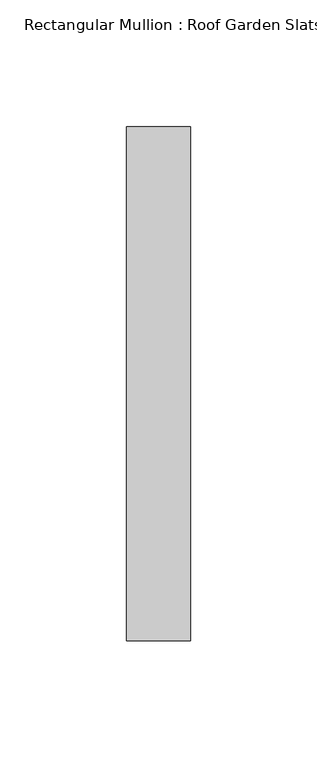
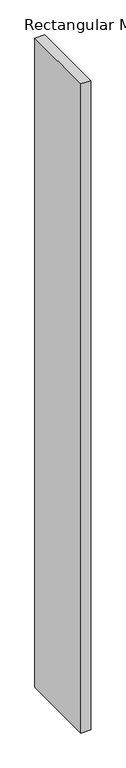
"""IFC4 building model written with IfcOpenShell, lengths in millimetres: member geometry, Rectangular Mullion : Roof Garden Slats."""

import ifcopenshell
import ifcopenshell.guid

model = None  # the IFC model being written
_history = None  # IfcOwnerHistory: only IFC2X3 demands one
_inside = {}  # id of a spatial element -> (the spatial element, [elements in it])
_under = {}  # id of a project, library or spatial element -> (it, [spatial elements below it])
_declared = {}  # id of a project -> (the project, [libraries it declares])
_typed = {}  # id of a type object -> (the type object, [elements of that type])
_made_of = {}  # id of a material, layer set ... -> (it, [elements and type objects made of it])


def new_model(schema):
    """Start an empty IFC model of exactly this schema.

    Asked for "IFC4X3", IfcOpenShell would pick the latest addendum, in which some entities
    have other attributes; the version numbers below select the first issue.
    IFC2X3 requires an IfcOwnerHistory on every rooted entity: one is made here for all.
    """
    global model, _history
    if schema == "IFC4X3":
        model = ifcopenshell.file(schema_version=(4, 3, 0, 0))
    else:
        model = ifcopenshell.file(schema=schema)
    _inside.clear()
    _under.clear()
    _declared.clear()
    _typed.clear()
    _made_of.clear()
    _history = None
    if model.schema == "IFC2X3":
        org = make("IfcOrganization", Name="unknown")
        user = make(
            "IfcPersonAndOrganization",
            ThePerson=make("IfcPerson", FamilyName="unknown"),
            TheOrganization=org,
        )
        app = make(
            "IfcApplication",
            ApplicationDeveloper=org,
            Version="unknown",
            ApplicationFullName="unknown",
            ApplicationIdentifier="unknown",
        )
        _history = make(
            "IfcOwnerHistory",
            OwningUser=user,
            OwningApplication=app,
            ChangeAction="ADDED",
            CreationDate=0,
        )
    return model


def make(cls, **values):
    """One entity of the class cls with the attributes given. An attribute that is None is left unset."""
    return model.create_entity(
        cls, **{name: value for name, value in values.items() if value is not None}
    )


def rooted(cls, **values):
    """An entity with a GlobalId (a new one), such as an element, a storey or a relation."""
    return make(cls, GlobalId=ifcopenshell.guid.new(), OwnerHistory=_history, **values)


def si_unit(unit_type, name, prefix=None):
    """IfcSIUnit, for example si_unit("LENGTHUNIT", "METRE", prefix="MILLI")."""
    return make("IfcSIUnit", UnitType=unit_type, Prefix=prefix, Name=name)


def assignment(units):
    """IfcUnitAssignment: the units of a project."""
    return None if units is None else make("IfcUnitAssignment", Units=units)


def point(xyz):
    """IfcCartesianPoint."""
    return None if xyz is None else make("IfcCartesianPoint", Coordinates=xyz)


def direction(xyz):
    """IfcDirection."""
    return None if xyz is None else make("IfcDirection", DirectionRatios=xyz)


def frame(location, z_axis=None, x_axis=None):
    """IfcAxis2Placement3D, a coordinate frame: its origin and axes. An axis left out is left unset."""
    return make(
        "IfcAxis2Placement3D",
        Location=point(location),
        Axis=direction(z_axis),
        RefDirection=direction(x_axis),
    )


def origin():
    """The frame at (0, 0, 0) with its axes left unset."""
    return frame((0.0, 0.0, 0.0))


def place(relative_to, where):
    """IfcLocalPlacement: puts the frame where relative to a parent placement (None: the world)."""
    return make(
        "IfcLocalPlacement", PlacementRelTo=relative_to, RelativePlacement=where
    )


def context(
    kind, dimensions, precision=None, world=None, true_north=None, identifier=None
):
    """IfcGeometricRepresentationContext, for example the 3D "Model" context."""
    return make(
        "IfcGeometricRepresentationContext",
        ContextIdentifier=identifier,
        ContextType=kind,
        CoordinateSpaceDimension=dimensions,
        Precision=precision,
        WorldCoordinateSystem=world,
        TrueNorth=true_north,
    )


def project(units=None, contexts=None):
    """IfcProject with its units and contexts."""
    return rooted(
        "IfcProject",
        Name="project",
        RepresentationContexts=contexts,
        UnitsInContext=assignment(units),
    )


def spatial(cls, under=None, at=None, **own):
    """A site, building, storey or space (cls), placed at a placement, below another one or the project."""
    s = rooted(cls, ObjectPlacement=at, **own)
    if under is not None:
        _under.setdefault(under.id(), (under, []))[1].append(s)
    return s


def polyline(points):
    """IfcPolyline through the points."""
    return make("IfcPolyline", Points=[point(p) for p in points])


def outline(outer, holes=None, kind="AREA"):
    """IfcArbitraryClosedProfileDef: a profile drawn as a closed curve; with holes, ...WithVoids."""
    if holes is None:
        return make("IfcArbitraryClosedProfileDef", ProfileType=kind, OuterCurve=outer)
    return make(
        "IfcArbitraryProfileDefWithVoids",
        ProfileType=kind,
        OuterCurve=outer,
        InnerCurves=holes,
    )


def extrude(swept, where, along, depth):
    """IfcExtrudedAreaSolid: the profile swept, set in the frame where, extruded along a direction by depth."""
    return make(
        "IfcExtrudedAreaSolid",
        SweptArea=swept,
        Position=where,
        ExtrudedDirection=direction(along),
        Depth=depth,
    )


def shape(context_of_items, identifier, shape_type, items):
    """IfcShapeRepresentation: the items that make up one representation, for example the "Body"."""
    return make(
        "IfcShapeRepresentation",
        ContextOfItems=context_of_items,
        RepresentationIdentifier=identifier,
        RepresentationType=shape_type,
        Items=items,
    )


def source(mapping_origin, context_of_items, identifier, shape_type, items):
    """IfcRepresentationMap: a shape defined once, which mapped items show again and again."""
    return make(
        "IfcRepresentationMap",
        MappingOrigin=mapping_origin,
        MappedRepresentation=shape(context_of_items, identifier, shape_type, items),
    )


def transform(
    local_origin,
    x_axis=None,
    y_axis=None,
    z_axis=None,
    scale=None,
    scale2=None,
    scale3=None,
    uniform=True,
):
    """IfcCartesianTransformationOperator3D, or its non-uniform kind. x_axis, y_axis, z_axis: its Axis1, 2, 3."""
    if uniform:
        return make(
            "IfcCartesianTransformationOperator3D",
            Axis1=direction(x_axis),
            Axis2=direction(y_axis),
            LocalOrigin=point(local_origin),
            Scale=scale,
            Axis3=direction(z_axis),
        )
    return make(
        "IfcCartesianTransformationOperator3DnonUniform",
        Axis1=direction(x_axis),
        Axis2=direction(y_axis),
        LocalOrigin=point(local_origin),
        Scale=scale,
        Axis3=direction(z_axis),
        Scale2=scale2,
        Scale3=scale3,
    )


def mapped(mapping_source, mapping_target):
    """IfcMappedItem: shows the shape of a source again, moved by a transform."""
    return make(
        "IfcMappedItem", MappingSource=mapping_source, MappingTarget=mapping_target
    )


def made_of(thing, what):
    """Note that an element or type object is made of a material, layer set ...; save() writes the relation."""
    if what is not None:
        _made_of.setdefault(what.id(), (what, []))[1].append(thing)
    return thing


def element(
    cls,
    number,
    at=None,
    inside=None,
    cuts=None,
    type_object=None,
    material=None,
    context=None,
    identifier="Body",
    shape_type=None,
    held_by="IfcProductDefinitionShape",
    body=None,
    shapes=None,
    **own,
):
    """One element of the class cls, such as IfcWall. Its Tag is "e" and its number.

    at: its placement. inside: the storey or other place that contains it. cuts: it is an
    opening in that element (IfcRelVoidsElement). A single representation is given by context,
    identifier, shape_type and body (its items); several are given by shapes. held_by: the class
    of the entity that holds the representations. save() writes the other relations.
    """
    e = rooted(cls, Tag="e%d" % number, ObjectPlacement=at, **own)
    if body is not None:
        shapes = [shape(context, identifier, shape_type, body)]
    if shapes is not None:
        e.Representation = make(held_by, Representations=shapes)
    if inside is not None:
        _inside.setdefault(inside.id(), (inside, []))[1].append(e)
    if cuts is not None:
        rooted(
            "IfcRelVoidsElement", RelatingBuildingElement=cuts, RelatedOpeningElement=e
        )
    if type_object is not None:
        _typed.setdefault(type_object.id(), (type_object, []))[1].append(e)
    return made_of(e, material)


def aggregate(whole, parts):
    """IfcRelAggregates: a whole, such as a stair, and the parts it consists of."""
    return rooted("IfcRelAggregates", RelatingObject=whole, RelatedObjects=parts)


def save(model, path):
    """Write the relations noted so far, then the file.

    IfcRelAggregates (storeys below a building ...), IfcRelContainedInSpatialStructure (elements
    in a storey), IfcRelDefinesByType, IfcRelAssociatesMaterial and IfcRelDeclares: one each for
    every whole, place, type object, material and project.
    """
    for whole, parts in _under.values():
        aggregate(whole, parts)
    for where, things in _inside.values():
        rooted(
            "IfcRelContainedInSpatialStructure",
            RelatedElements=things,
            RelatingStructure=where,
        )
    for kind, things in _typed.values():
        rooted("IfcRelDefinesByType", RelatedObjects=things, RelatingType=kind)
    for what, things in _made_of.values():
        rooted("IfcRelAssociatesMaterial", RelatedObjects=things, RelatingMaterial=what)
    for by, libraries in _declared.values():
        rooted("IfcRelDeclares", RelatingContext=by, RelatedDefinitions=libraries)
    model.write(path)


def rectangular_mullion_roof_garden_slats_7507a1ab(model_context):
    return source(origin(), model_context, "Body", "SweptSolid", [
        extrude(outline(polyline([(12.7, 139.7), (12.7, -63.5), (-12.7, -63.5), (-12.7, 139.7), (12.7, 139.7)])), frame((0.0, 0.0, -1752.708307), z_axis=(0.0, 0.0, 1.0), x_axis=(1.0, 0.0, 0.0)), (0.0, 0.0, 1.0), 1752.708307),
    ])


if __name__ == "__main__":
    model = new_model("IFC4")
    model_context = context("Model", 3, world=origin())
    ifc_project = project(units=[si_unit("LENGTHUNIT", "METRE", prefix="MILLI")], contexts=[model_context])
    site = spatial("IfcSite", under=ifc_project)
    building = spatial("IfcBuilding", under=site)
    placement = place(None, origin())
    rectangular_mullion_roof_garden_slats_shape = rectangular_mullion_roof_garden_slats_7507a1ab(model_context)
    element("IfcMember", 1, ObjectType="Rectangular Mullion : Roof Garden Slats", at=placement, inside=building, context=model_context, shape_type="MappedRepresentation", body=[
        mapped(rectangular_mullion_roof_garden_slats_shape, transform((0.0, 0.0, 0.0), x_axis=(1.0, 0.0, 0.0), y_axis=(0.0, 1.0, 0.0), z_axis=(0.0, 0.0, 1.0))),
    ])
    save(model, "model.ifc")
